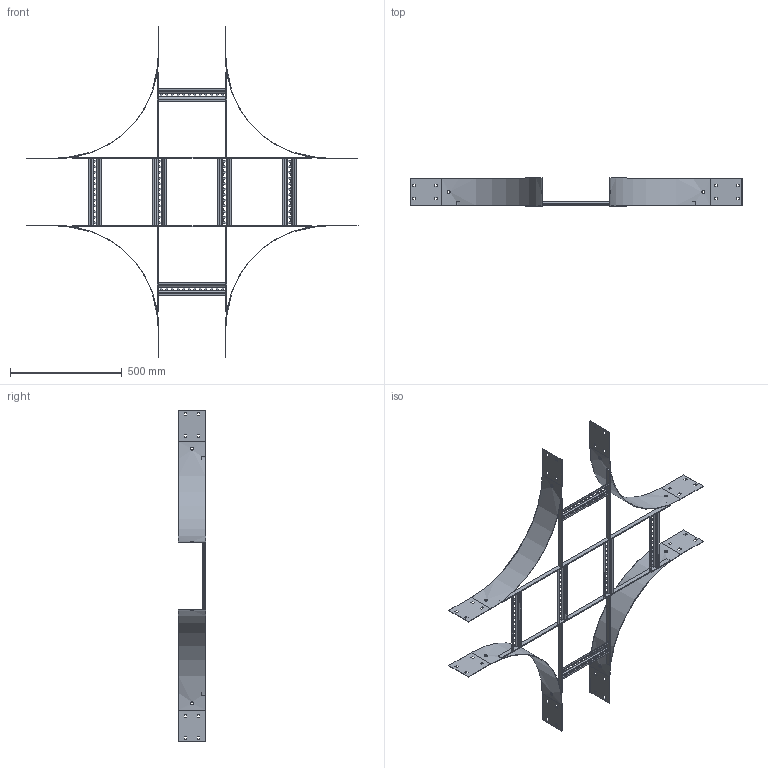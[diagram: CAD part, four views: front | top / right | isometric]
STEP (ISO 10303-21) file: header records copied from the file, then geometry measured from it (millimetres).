
FILE_DESCRIPTION (( 'STEP AP203' ), '1' );
FILE_NAME ('N3 C 3004.STEP', '2024-08-27T05:49:44', ( '' ), ( '' ), 'SwSTEP 2.0', 'SolidWorks 2023', '' );
FILE_SCHEMA (( 'CONFIG_CONTROL_DESIGN' ));
Length unit declared in the file: millimetre
Products named in the file (5): N3 RADIUS PLATE_N1-450 IR; Ladder Rung_Ladder Rung -  300mm; Ladder Tee 20x5 Flat Bar_378; Ladder Tee 20x5 Flat Bar_1066; N3 C 3004
Assembly tree (16 placements, depth 2):
  N3 C 3004
    Ladder Rung_Ladder Rung -  300mm  x6
    Ladder Tee 20x5 Flat Bar_1066  x2
    N3 RADIUS PLATE_N1-450 IR  x4
    Ladder Tee 20x5 Flat Bar_378  x4
Bounding box: 1485 x 124 x 1485 mm (x, y, z)
Volume: 1527183.6 mm3; surface area: 1429431.7 mm2
Topology: 16 solids, 16 shells, 776 faces, 2008 edges, 1264 vertices
Faces by surface type: plane 704, cylinder 72
Entity records: 5811 total; most frequent: CARTESIAN_POINT 1151, ORIENTED_EDGE 784, DIRECTION 746, EDGE_CURVE 392, LINE 364, VECTOR 364, VERTEX_POINT 248, EDGE_LOOP 194
